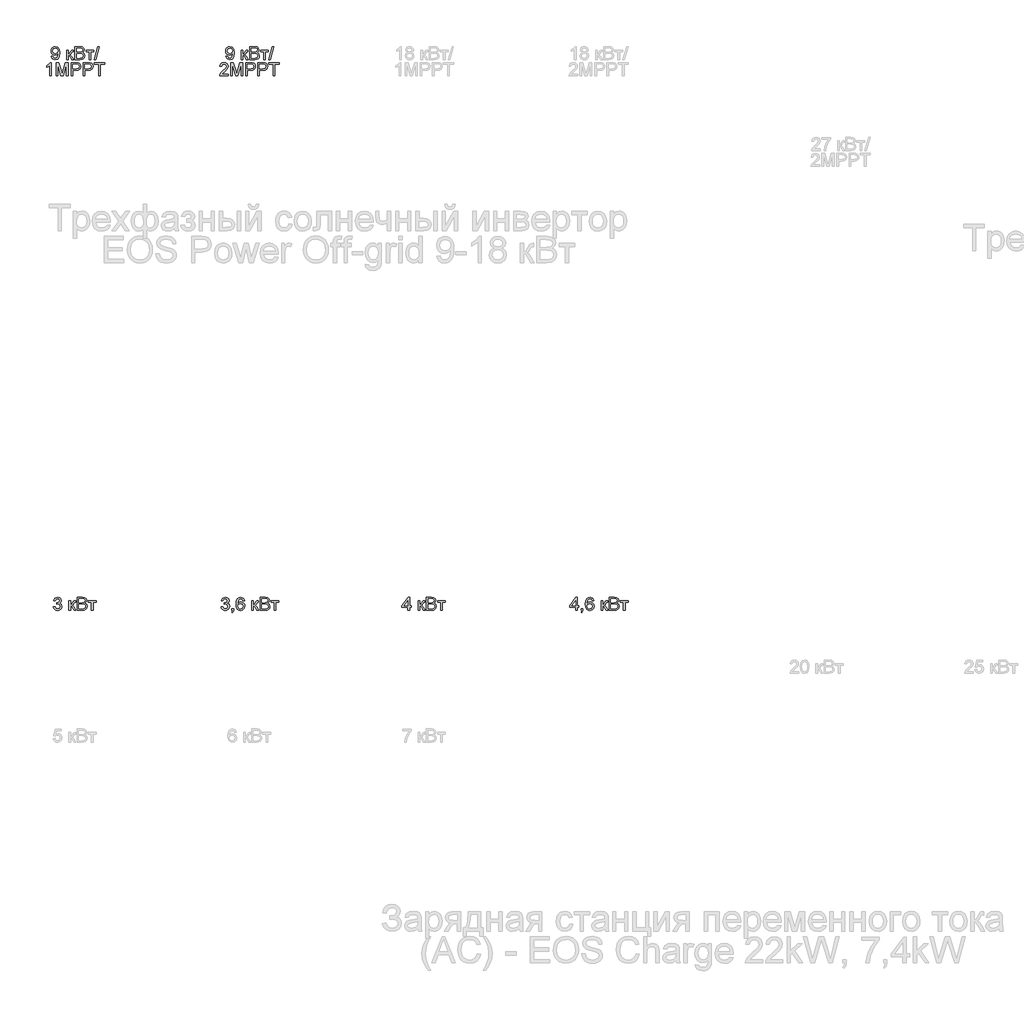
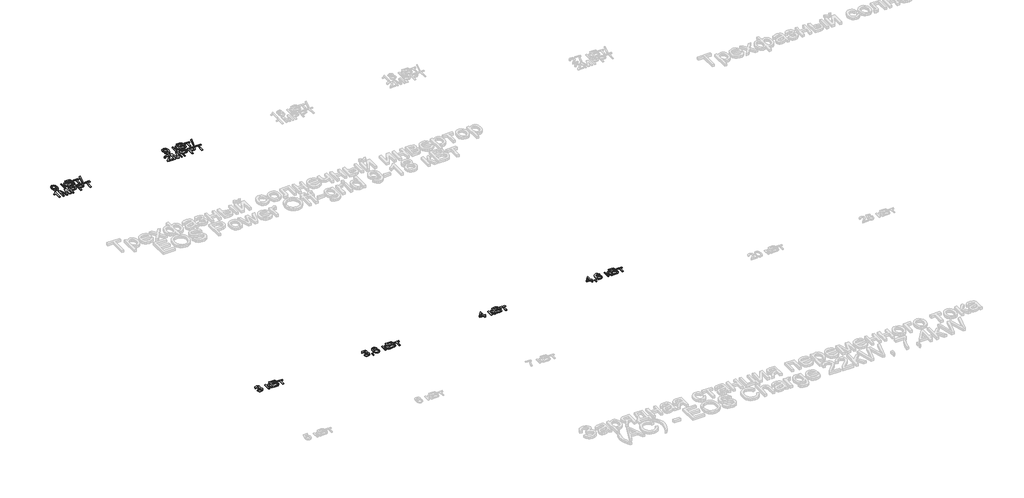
# One storey, part 4 of 26: 6 proxies.
"""IFC4 building model written with IfcOpenShell, lengths in millimetres."""

from ifc_helpers import new_model, si_unit, origin, origin_with_axes, place, context, project, spatial, polyline, outline, extrude, element, save

model = new_model("IFC4")

# Units and contexts
model_context = context("Model", 3, world=origin())
ifc_project = project(units=[si_unit("LENGTHUNIT", "METRE", prefix="MILLI")], contexts=[model_context])

# Site, building, storey
site = spatial("IfcSite", under=ifc_project)
building = spatial("IfcBuilding", under=site)
storey = spatial("IfcBuildingStorey", under=building, Name="Этаж 01", Elevation=0.0)

# Proxies
placement = place(None, origin())
element("IfcBuildingElementProxy", 1, Name="75 мм Arial", ObjectType="75 мм Arial", at=placement, inside=storey, context=model_context, shape_type="SweptSolid", body=[
    extrude(outline(polyline([(863.5495843, -19274.6892694), (872.9673634, -19273.512047), (878.1636966, -19283.4264667), (887.8849783, -19286.4614932), (899.3261083, -19282.2860326), (903.5751454, -19271.9485485), (899.3628965, -19262.2088727), (888.6575305, -19258.3553088), (882.0540487, -19259.3853784), (883.1025124, -19249.9675993), (895.2978005, -19247.3740312), (900.0434782, -19239.0598981), (896.6037816, -19231.6930612), (887.7378255, -19228.7775964), (878.7615048, -19231.7206523), (874.1445858, -19240.5498202), (864.7268067, -19239.3725978), (872.4339345, -19224.6021357), (887.4067317, -19219.3598173), (898.7650883, -19221.9441883), (906.7113394, -19229.0075226), (909.4612573, -19238.5080751), (906.8492951, -19247.1900902), (899.1237732, -19253.42569), (909.3876809, -19259.863625), (912.9929245, -19272.1140954), (911.1903027, -19281.2927512), (905.7824374, -19288.9630908), (897.6200556, -19294.1502269), (887.5538845, -19295.8792723), (878.4488051, -19294.4031458), (871.0359829, -19289.9747663), (865.8810365, -19283.201139), (863.5495843, -19274.6892694)])), origin_with_axes(), (0.0, 0.0, 1.0), 5.0),
    extrude(outline(polyline([(953.0184855, -19239.3725978), (962.4362646, -19239.3725978), (962.4362646, -19262.9170455), (968.7454408, -19261.2247883), (973.9141829, -19251.3655509), (978.2092052, -19242.8582797), (981.9983897, -19240.0899677), (988.8869801, -19239.3725978), (990.6896018, -19239.3725978), (990.6896018, -19248.8455592), (988.1512161, -19248.7903769), (983.5526911, -19249.7836583), (980.3153296, -19255.9824699), (976.516948, -19262.6871193), (971.1918561, -19265.9704661), (982.9640799, -19277.3564138), (993.0440466, -19294.7020499), (982.3386806, -19294.7020499), (972.461049, -19277.7242958), (967.494642, -19270.5413999), (962.4362646, -19268.8031574), (962.4362646, -19294.7020499), (953.0184855, -19294.7020499), (953.0184855, -19239.3725978)])), origin_with_axes(), (0.0, 0.0, 1.0), 5.0),
    extrude(outline(polyline([(1000.1073809, -19294.7020499), (1000.1073809, -19219.3598173), (1028.8573588, -19219.3598173), (1042.9380422, -19221.5763063), (1051.2521753, -19228.3913203), (1054.2596106, -19238.0298285), (1051.7304219, -19246.8314053), (1044.0876734, -19253.4992664), (1053.3674968, -19260.5258125), (1056.6140554, -19272.2428541), (1054.3975664, -19282.368806), (1048.9069276, -19289.5792931), (1040.7123561, -19293.4052659), (1028.6366296, -19294.7020499), (1000.1073809, -19294.7020499)]), holes=[polyline([(1009.52516, -19249.9675993), (1026.7236433, -19249.9675993), (1036.7668217, -19249.1582589), (1042.8092835, -19245.672577), (1044.8418315, -19239.5381447), (1042.9472393, -19233.3945154), (1037.5209798, -19229.7616807), (1025.4176622, -19228.7775964), (1009.52516, -19228.7775964), (1009.52516, -19249.9675993)]), polyline([(1009.52516, -19285.2842708), (1028.8389647, -19285.2842708), (1035.8287227, -19284.9163888), (1041.7424257, -19282.8654467), (1045.660369, -19278.680789), (1047.1962763, -19272.3348246), (1045.3936545, -19265.0139729), (1039.5535279, -19260.6453742), (1027.9192598, -19259.3853784), (1009.52516, -19259.3853784), (1009.52516, -19285.2842708)])]), origin_with_axes(), (0.0, 0.0, 1.0), 5.0),
    extrude(outline(polyline([(1063.6773897, -19239.3725978), (1108.4118403, -19239.3725978), (1108.4118403, -19248.7903769), (1090.7535045, -19248.7903769), (1090.7535045, -19294.7020499), (1081.3357255, -19294.7020499), (1081.3357255, -19248.7903769), (1063.6773897, -19248.7903769), (1063.6773897, -19239.3725978)])), origin_with_axes(), (0.0, 0.0, 1.0), 5.0),
])
element("IfcBuildingElementProxy", 2, Name="75 мм Arial", ObjectType="75 мм Arial", at=placement, inside=storey, context=model_context, shape_type="SweptSolid", body=[
    extrude(outline(polyline([(1823.5495843, -19274.6892694), (1832.9673634, -19273.512047), (1838.1636966, -19283.4264667), (1847.8849783, -19286.4614932), (1859.3261083, -19282.2860326), (1863.5751454, -19271.9485485), (1859.3628965, -19262.2088727), (1848.6575305, -19258.3553088), (1842.0540487, -19259.3853784), (1843.1025124, -19249.9675993), (1855.2978005, -19247.3740312), (1860.0434782, -19239.0598981), (1856.6037816, -19231.6930612), (1847.7378255, -19228.7775964), (1838.7615048, -19231.7206523), (1834.1445858, -19240.5498202), (1824.7268067, -19239.3725978), (1832.4339345, -19224.6021357), (1847.4067317, -19219.3598173), (1858.7650883, -19221.9441883), (1866.7113394, -19229.0075226), (1869.4612573, -19238.5080751), (1866.8492951, -19247.1900902), (1859.1237732, -19253.42569), (1869.3876809, -19259.863625), (1872.9929245, -19272.1140954), (1871.1903027, -19281.2927512), (1865.7824374, -19288.9630908), (1857.6200556, -19294.1502269), (1847.5538845, -19295.8792723), (1838.4488051, -19294.4031458), (1831.0359829, -19289.9747663), (1825.8810365, -19283.201139), (1823.5495843, -19274.6892694)])), origin_with_axes(), (0.0, 0.0, 1.0), 5.0),
    extrude(outline(polyline([(1885.9423707, -19294.7020499), (1885.9423707, -19285.2842708), (1895.3601498, -19285.2842708), (1895.3601498, -19294.7020499), (1893.6678926, -19304.3313611), (1888.2968155, -19310.0059409), (1885.9423707, -19306.4742737), (1889.4004614, -19302.4091777), (1890.6328661, -19294.7020499), (1885.9423707, -19294.7020499)])), origin_with_axes(), (0.0, 0.0, 1.0), 5.0),
    extrude(outline(polyline([(1958.9301585, -19239.3725978), (1949.5123795, -19240.5498202), (1945.9439241, -19232.6955396), (1936.5077509, -19228.7775964), (1928.0096768, -19231.0584647), (1921.580939, -19239.6209182), (1918.9045975, -19256.4055342), (1927.2095335, -19248.8915444), (1937.5010323, -19246.4359321), (1946.2014415, -19248.1143937), (1953.5038991, -19253.1497785), (1958.4565105, -19260.8431108), (1960.1073809, -19270.4954146), (1956.9987781, -19283.4908461), (1948.4455217, -19292.687896), (1936.1030807, -19295.8792723), (1925.418408, -19293.7639508), (1916.9088376, -19287.4179864), (1911.3423232, -19276.2159796), (1909.4868184, -19259.5325312), (1911.5469576, -19240.7751479), (1917.7273751, -19227.9498619), (1926.1656683, -19221.5073284), (1937.0963621, -19219.3598173), (1951.9771888, -19224.6757121), (1958.9301585, -19239.3725978)]), holes=[polyline([(1918.9045975, -19270.3482618), (1921.0842983, -19278.5060451), (1926.8784397, -19284.4289452), (1935.3673167, -19286.4614932), (1946.468156, -19282.2492444), (1950.6896018, -19270.8081143), (1946.5233383, -19259.8544279), (1934.9810407, -19255.8537112), (1923.5858959, -19259.8544279), (1918.9045975, -19270.3482618)])]), origin_with_axes(), (0.0, 0.0, 1.0), 5.0),
    extrude(outline(polyline([(2000.132942, -19239.3725978), (2009.5507211, -19239.3725978), (2009.5507211, -19262.9170455), (2015.8598973, -19261.2247883), (2021.0286393, -19251.3655509), (2025.3236616, -19242.8582797), (2029.1128462, -19240.0899677), (2036.0014365, -19239.3725978), (2037.8040583, -19239.3725978), (2037.8040583, -19248.8455592), (2035.2656725, -19248.7903769), (2030.6671476, -19249.7836583), (2027.429786, -19255.9824699), (2023.6314044, -19262.6871193), (2018.3063126, -19265.9704661), (2030.0785364, -19277.3564138), (2040.1585031, -19294.7020499), (2029.453137, -19294.7020499), (2019.5755054, -19277.7242958), (2014.6090985, -19270.5413999), (2009.5507211, -19268.8031574), (2009.5507211, -19294.7020499), (2000.132942, -19294.7020499), (2000.132942, -19239.3725978)])), origin_with_axes(), (0.0, 0.0, 1.0), 5.0),
    extrude(outline(polyline([(2047.2218374, -19294.7020499), (2047.2218374, -19219.3598173), (2075.9718153, -19219.3598173), (2090.0524987, -19221.5763063), (2098.3666318, -19228.3913203), (2101.3740671, -19238.0298285), (2098.8448784, -19246.8314053), (2091.2021299, -19253.4992664), (2100.4819532, -19260.5258125), (2103.7285118, -19272.2428541), (2101.5120228, -19282.368806), (2096.021384, -19289.5792931), (2087.8268126, -19293.4052659), (2075.7510861, -19294.7020499), (2047.2218374, -19294.7020499)]), holes=[polyline([(2056.6396165, -19249.9675993), (2073.8380997, -19249.9675993), (2083.8812782, -19249.1582589), (2089.92374, -19245.672577), (2091.956288, -19239.5381447), (2090.0616957, -19233.3945154), (2084.6354363, -19229.7616807), (2072.5321186, -19228.7775964), (2056.6396165, -19228.7775964), (2056.6396165, -19249.9675993)]), polyline([(2056.6396165, -19285.2842708), (2075.9534212, -19285.2842708), (2082.9431791, -19284.9163888), (2088.8568822, -19282.8654467), (2092.7748254, -19278.680789), (2094.3107328, -19272.3348246), (2092.508111, -19265.0139729), (2086.6679843, -19260.6453742), (2075.0337162, -19259.3853784), (2056.6396165, -19259.3853784), (2056.6396165, -19285.2842708)])]), origin_with_axes(), (0.0, 0.0, 1.0), 5.0),
    extrude(outline(polyline([(2110.7918461, -19239.3725978), (2155.5262968, -19239.3725978), (2155.5262968, -19248.7903769), (2137.867961, -19248.7903769), (2137.867961, -19294.7020499), (2128.4501819, -19294.7020499), (2128.4501819, -19248.7903769), (2110.7918461, -19248.7903769), (2110.7918461, -19239.3725978)])), origin_with_axes(), (0.0, 0.0, 1.0), 5.0),
])
element("IfcBuildingElementProxy", 3, Name="75 мм Arial", ObjectType="75 мм Arial", at=placement, inside=storey, context=model_context, shape_type="SweptSolid", body=[
    extrude(outline(polyline([(2894.1573663, -19294.7020499), (2894.1573663, -19277.0437141), (2860.0179172, -19277.0437141), (2860.0179172, -19267.6259351), (2896.5118111, -19220.5370397), (2903.5751454, -19220.5370397), (2903.5751454, -19267.6259351), (2912.9929245, -19267.6259351), (2912.9929245, -19277.0437141), (2903.5751454, -19277.0437141), (2903.5751454, -19294.7020499), (2894.1573663, -19294.7020499)]), holes=[polyline([(2894.1573663, -19267.6259351), (2894.1573663, -19238.5264692), (2871.6062, -19267.6259351), (2894.1573663, -19267.6259351)])]), origin_with_axes(), (0.0, 0.0, 1.0), 5.0),
    extrude(outline(polyline([(2953.0184855, -19239.3725978), (2962.4362646, -19239.3725978), (2962.4362646, -19262.9170455), (2968.7454408, -19261.2247883), (2973.9141829, -19251.3655509), (2978.2092052, -19242.8582797), (2981.9983897, -19240.0899677), (2988.8869801, -19239.3725978), (2990.6896018, -19239.3725978), (2990.6896018, -19248.8455592), (2988.1512161, -19248.7903769), (2983.5526911, -19249.7836583), (2980.3153296, -19255.9824699), (2976.516948, -19262.6871193), (2971.1918561, -19265.9704661), (2982.9640799, -19277.3564138), (2993.0440466, -19294.7020499), (2982.3386806, -19294.7020499), (2972.461049, -19277.7242958), (2967.494642, -19270.5413999), (2962.4362646, -19268.8031574), (2962.4362646, -19294.7020499), (2953.0184855, -19294.7020499), (2953.0184855, -19239.3725978)])), origin_with_axes(), (0.0, 0.0, 1.0), 5.0),
    extrude(outline(polyline([(3000.1073809, -19294.7020499), (3000.1073809, -19219.3598173), (3028.8573588, -19219.3598173), (3042.9380422, -19221.5763063), (3051.2521753, -19228.3913203), (3054.2596106, -19238.0298285), (3051.7304219, -19246.8314053), (3044.0876734, -19253.4992664), (3053.3674968, -19260.5258125), (3056.6140554, -19272.2428541), (3054.3975664, -19282.368806), (3048.9069276, -19289.5792931), (3040.7123561, -19293.4052659), (3028.6366296, -19294.7020499), (3000.1073809, -19294.7020499)]), holes=[polyline([(3009.52516, -19249.9675993), (3026.7236433, -19249.9675993), (3036.7668217, -19249.1582589), (3042.8092835, -19245.672577), (3044.8418315, -19239.5381447), (3042.9472393, -19233.3945154), (3037.5209798, -19229.7616807), (3025.4176622, -19228.7775964), (3009.52516, -19228.7775964), (3009.52516, -19249.9675993)]), polyline([(3009.52516, -19285.2842708), (3028.8389647, -19285.2842708), (3035.8287227, -19284.9163888), (3041.7424257, -19282.8654467), (3045.660369, -19278.680789), (3047.1962763, -19272.3348246), (3045.3936545, -19265.0139729), (3039.5535279, -19260.6453742), (3027.9192598, -19259.3853784), (3009.52516, -19259.3853784), (3009.52516, -19285.2842708)])]), origin_with_axes(), (0.0, 0.0, 1.0), 5.0),
    extrude(outline(polyline([(3063.6773897, -19239.3725978), (3108.4118403, -19239.3725978), (3108.4118403, -19248.7903769), (3090.7535045, -19248.7903769), (3090.7535045, -19294.7020499), (3081.3357255, -19294.7020499), (3081.3357255, -19248.7903769), (3063.6773897, -19248.7903769), (3063.6773897, -19239.3725978)])), origin_with_axes(), (0.0, 0.0, 1.0), 5.0),
])
element("IfcBuildingElementProxy", 4, Name="75 мм Arial", ObjectType="75 мм Arial", at=placement, inside=storey, context=model_context, shape_type="SweptSolid", body=[
    extrude(outline(polyline([(3854.1573663, -19294.7020499), (3854.1573663, -19277.0437141), (3820.0179172, -19277.0437141), (3820.0179172, -19267.6259351), (3856.5118111, -19220.5370397), (3863.5751454, -19220.5370397), (3863.5751454, -19267.6259351), (3872.9929245, -19267.6259351), (3872.9929245, -19277.0437141), (3863.5751454, -19277.0437141), (3863.5751454, -19294.7020499), (3854.1573663, -19294.7020499)]), holes=[polyline([(3854.1573663, -19267.6259351), (3854.1573663, -19238.5264692), (3831.6062, -19267.6259351), (3854.1573663, -19267.6259351)])]), origin_with_axes(), (0.0, 0.0, 1.0), 5.0),
    extrude(outline(polyline([(3885.9423707, -19294.7020499), (3885.9423707, -19285.2842708), (3895.3601498, -19285.2842708), (3895.3601498, -19294.7020499), (3893.6678926, -19304.3313611), (3888.2968155, -19310.0059409), (3885.9423707, -19306.4742737), (3889.4004614, -19302.4091777), (3890.6328661, -19294.7020499), (3885.9423707, -19294.7020499)])), origin_with_axes(), (0.0, 0.0, 1.0), 5.0),
    extrude(outline(polyline([(3958.9301585, -19239.3725978), (3949.5123795, -19240.5498202), (3945.9439241, -19232.6955396), (3936.5077509, -19228.7775964), (3928.0096768, -19231.0584647), (3921.580939, -19239.6209182), (3918.9045975, -19256.4055342), (3927.2095335, -19248.8915444), (3937.5010323, -19246.4359321), (3946.2014415, -19248.1143937), (3953.5038991, -19253.1497785), (3958.4565105, -19260.8431108), (3960.1073809, -19270.4954146), (3956.9987781, -19283.4908461), (3948.4455217, -19292.687896), (3936.1030807, -19295.8792723), (3925.418408, -19293.7639508), (3916.9088376, -19287.4179864), (3911.3423232, -19276.2159796), (3909.4868184, -19259.5325312), (3911.5469576, -19240.7751479), (3917.7273751, -19227.9498619), (3926.1656683, -19221.5073284), (3937.0963621, -19219.3598173), (3951.9771888, -19224.6757121), (3958.9301585, -19239.3725978)]), holes=[polyline([(3918.9045975, -19270.3482618), (3921.0842983, -19278.5060451), (3926.8784397, -19284.4289452), (3935.3673167, -19286.4614932), (3946.468156, -19282.2492444), (3950.6896018, -19270.8081143), (3946.5233383, -19259.8544279), (3934.9810407, -19255.8537112), (3923.5858959, -19259.8544279), (3918.9045975, -19270.3482618)])]), origin_with_axes(), (0.0, 0.0, 1.0), 5.0),
    extrude(outline(polyline([(4000.132942, -19239.3725978), (4009.5507211, -19239.3725978), (4009.5507211, -19262.9170455), (4015.8598973, -19261.2247883), (4021.0286393, -19251.3655509), (4025.3236616, -19242.8582797), (4029.1128462, -19240.0899677), (4036.0014365, -19239.3725978), (4037.8040583, -19239.3725978), (4037.8040583, -19248.8455592), (4035.2656725, -19248.7903769), (4030.6671476, -19249.7836583), (4027.429786, -19255.9824699), (4023.6314044, -19262.6871193), (4018.3063126, -19265.9704661), (4030.0785364, -19277.3564138), (4040.1585031, -19294.7020499), (4029.453137, -19294.7020499), (4019.5755054, -19277.7242958), (4014.6090985, -19270.5413999), (4009.5507211, -19268.8031574), (4009.5507211, -19294.7020499), (4000.132942, -19294.7020499), (4000.132942, -19239.3725978)])), origin_with_axes(), (0.0, 0.0, 1.0), 5.0),
    extrude(outline(polyline([(4047.2218374, -19294.7020499), (4047.2218374, -19219.3598173), (4075.9718153, -19219.3598173), (4090.0524987, -19221.5763063), (4098.3666318, -19228.3913203), (4101.3740671, -19238.0298285), (4098.8448784, -19246.8314053), (4091.2021299, -19253.4992664), (4100.4819532, -19260.5258125), (4103.7285118, -19272.2428541), (4101.5120228, -19282.368806), (4096.021384, -19289.5792931), (4087.8268126, -19293.4052659), (4075.7510861, -19294.7020499), (4047.2218374, -19294.7020499)]), holes=[polyline([(4056.6396165, -19249.9675993), (4073.8380997, -19249.9675993), (4083.8812782, -19249.1582589), (4089.92374, -19245.672577), (4091.956288, -19239.5381447), (4090.0616957, -19233.3945154), (4084.6354363, -19229.7616807), (4072.5321186, -19228.7775964), (4056.6396165, -19228.7775964), (4056.6396165, -19249.9675993)]), polyline([(4056.6396165, -19285.2842708), (4075.9534212, -19285.2842708), (4082.9431791, -19284.9163888), (4088.8568822, -19282.8654467), (4092.7748254, -19278.680789), (4094.3107328, -19272.3348246), (4092.508111, -19265.0139729), (4086.6679843, -19260.6453742), (4075.0337162, -19259.3853784), (4056.6396165, -19259.3853784), (4056.6396165, -19285.2842708)])]), origin_with_axes(), (0.0, 0.0, 1.0), 5.0),
    extrude(outline(polyline([(4110.7918461, -19239.3725978), (4155.5262968, -19239.3725978), (4155.5262968, -19248.7903769), (4137.867961, -19248.7903769), (4137.867961, -19294.7020499), (4128.4501819, -19294.7020499), (4128.4501819, -19248.7903769), (4110.7918461, -19248.7903769), (4110.7918461, -19239.3725978)])), origin_with_axes(), (0.0, 0.0, 1.0), 5.0),
])
element("IfcBuildingElementProxy", 5, Name="75 мм Arial", ObjectType="75 мм Arial", at=placement, inside=storey, context=model_context, shape_type="SweptSolid", body=[
    extrude(outline(polyline([(851.577725, -16122.6814482), (860.9955041, -16121.5042258), (865.226147, -16130.4897435), (873.2459745, -16133.2764496), (880.8703289, -16131.4830249), (886.0390709, -16126.6913619), (889.1200826, -16118.5059875), (890.481246, -16107.5798923), (890.4260637, -16105.7404823), (882.8936798, -16112.877393), (872.5653928, -16115.6181139), (863.9776475, -16113.9442508), (856.8292405, -16108.9226616), (852.0076871, -16101.16495), (850.4005026, -16091.2827199), (852.085862, -16081.0739945), (857.1419402, -16073.0725611), (864.7364041, -16067.8992206), (874.0369208, -16066.1747737), (887.4554166, -16070.1111111), (896.6892547, -16081.3315119), (899.8438428, -16102.4111502), (896.6984517, -16125.2842133), (887.345052, -16138.2428566), (872.8045161, -16142.6942287), (858.3283596, -16137.4427132), (851.577725, -16122.6814482)]), holes=[polyline([(890.4260637, -16091.0619907), (886.3609676, -16079.7680134), (875.5636311, -16075.5925528), (864.2328656, -16080.0899102), (859.8182817, -16091.7425724), (863.9937423, -16102.181224), (875.3061137, -16106.2003348), (886.1678296, -16102.181224), (890.4260637, -16091.0619907)])]), origin_with_axes(), (0.0, 0.0, 1.0), 5.0),
    extrude(outline(polyline([(939.8694038, -16086.1875542), (949.2871829, -16086.1875542), (949.2871829, -16109.7320019), (955.5963591, -16108.0397448), (960.7651012, -16098.1805073), (965.0601235, -16089.6732362), (968.849308, -16086.9049241), (975.7378984, -16086.1875542), (977.5405202, -16086.1875542), (977.5405202, -16095.6605156), (975.0021344, -16095.6053333), (970.4036094, -16096.5986147), (967.1662479, -16102.7974263), (963.3678663, -16109.5020757), (958.0427744, -16112.7854225), (969.8149983, -16124.1713703), (979.8949649, -16141.5170063), (969.1895989, -16141.5170063), (959.3119673, -16124.5392522), (954.3455604, -16117.3563563), (949.2871829, -16115.6181139), (949.2871829, -16141.5170063), (939.8694038, -16141.5170063), (939.8694038, -16086.1875542)])), origin_with_axes(), (0.0, 0.0, 1.0), 5.0),
    extrude(outline(polyline([(986.9582992, -16141.5170063), (986.9582992, -16066.1747737), (1015.7082772, -16066.1747737), (1029.7889605, -16068.3912627), (1038.1030936, -16075.2062767), (1041.1105289, -16084.844785), (1038.5813402, -16093.6463617), (1030.9385918, -16100.3142229), (1040.2184151, -16107.340769), (1043.4649737, -16119.0578105), (1041.2484847, -16129.1837624), (1035.7578459, -16136.3942495), (1027.5632744, -16140.2202223), (1015.487548, -16141.5170063), (986.9582992, -16141.5170063)]), holes=[polyline([(996.3760783, -16096.7825557), (1013.5745616, -16096.7825557), (1023.61774, -16095.9732153), (1029.6602018, -16092.4875334), (1031.6927498, -16086.3531011), (1029.7981576, -16080.2094718), (1024.3718981, -16076.5766371), (1012.2685805, -16075.5925528), (996.3760783, -16075.5925528), (996.3760783, -16096.7825557)]), polyline([(996.3760783, -16132.0992272), (1015.6898831, -16132.0992272), (1022.679641, -16131.7313453), (1028.593344, -16129.6804031), (1032.5112873, -16125.4957454), (1034.0471946, -16119.149781), (1032.2445728, -16111.8289293), (1026.4044462, -16107.4603306), (1014.7701781, -16106.2003348), (996.3760783, -16106.2003348), (996.3760783, -16132.0992272)])]), origin_with_axes(), (0.0, 0.0, 1.0), 5.0),
    extrude(outline(polyline([(1050.528308, -16086.1875542), (1095.2627586, -16086.1875542), (1095.2627586, -16095.6053333), (1077.6044228, -16095.6053333), (1077.6044228, -16141.5170063), (1068.1866438, -16141.5170063), (1068.1866438, -16095.6053333), (1050.528308, -16095.6053333), (1050.528308, -16086.1875542)])), origin_with_axes(), (0.0, 0.0, 1.0), 5.0),
    extrude(outline(polyline([(1096.439981, -16141.5170063), (1117.6299839, -16066.1747737), (1126.128058, -16066.1747737), (1104.9380551, -16141.5170063), (1096.439981, -16141.5170063)])), origin_with_axes(), (0.0, 0.0, 1.0), 5.0),
    extrude(outline(polyline([(852.7549474, -16232.9981197), (843.3371683, -16232.9981197), (843.3371683, -16174.2841533), (834.4160299, -16180.6393147), (824.5016102, -16185.3941895), (824.5016102, -16176.4914452), (838.306382, -16167.6806715), (846.6848945, -16157.6558871), (852.7549474, -16157.6558871), (852.7549474, -16232.9981197)])), origin_with_axes(), (0.0, 0.0, 1.0), 5.0),
    extrude(outline(polyline([(878.6538398, -16232.9981197), (878.6538398, -16157.6558871), (894.8590417, -16157.6558871), (910.2732973, -16210.7596531), (913.3819002, -16221.8512953), (916.7480204, -16209.8399481), (931.9047586, -16157.6558871), (948.1099605, -16157.6558871), (948.1099605, -16232.9981197), (938.6921815, -16232.9981197), (938.6921815, -16167.0736662), (919.7646528, -16232.9981197), (906.9991476, -16232.9981197), (888.0716189, -16167.0736662), (888.0716189, -16232.9981197), (878.6538398, -16232.9981197)])), origin_with_axes(), (0.0, 0.0, 1.0), 5.0),
    extrude(outline(polyline([(964.5910739, -16232.9981197), (964.5910739, -16157.6558871), (992.5133174, -16157.6558871), (1003.7705064, -16158.373257), (1012.921571, -16161.8957271), (1018.8536682, -16169.1797906), (1021.0977484, -16179.4528953), (1019.5825344, -16188.332647), (1015.0368925, -16195.7316736), (1006.5365192, -16200.7256717), (993.1571108, -16202.3903377), (974.008853, -16202.3903377), (974.008853, -16232.9981197), (964.5910739, -16232.9981197)]), holes=[polyline([(974.008853, -16192.9725586), (993.7089338, -16192.9725586), (1007.5780851, -16189.5144679), (1011.6799693, -16179.7839891), (1009.2611452, -16171.9848908), (1002.9059837, -16167.7174597), (993.4882046, -16167.0736662), (974.008853, -16167.0736662), (974.008853, -16192.9725586)])]), origin_with_axes(), (0.0, 0.0, 1.0), 5.0),
    extrude(outline(polyline([(1034.0471946, -16232.9981197), (1034.0471946, -16157.6558871), (1061.969438, -16157.6558871), (1073.2266271, -16158.373257), (1082.3776917, -16161.8957271), (1088.3097889, -16169.1797906), (1090.5538691, -16179.4528953), (1089.0386551, -16188.332647), (1084.4930132, -16195.7316736), (1075.9926398, -16200.7256717), (1062.6132315, -16202.3903377), (1043.4649737, -16202.3903377), (1043.4649737, -16232.9981197), (1034.0471946, -16232.9981197)]), holes=[polyline([(1043.4649737, -16192.9725586), (1063.1650545, -16192.9725586), (1077.0342057, -16189.5144679), (1081.13609, -16179.7839891), (1078.7172659, -16171.9848908), (1072.3621044, -16167.7174597), (1062.9443253, -16167.0736662), (1043.4649737, -16167.0736662), (1043.4649737, -16192.9725586)])]), origin_with_axes(), (0.0, 0.0, 1.0), 5.0),
    extrude(outline(polyline([(1122.3388735, -16232.9981197), (1122.3388735, -16167.0736662), (1097.6172034, -16167.0736662), (1097.6172034, -16157.6558871), (1156.4783226, -16157.6558871), (1156.4783226, -16167.0736662), (1131.7566525, -16167.0736662), (1131.7566525, -16232.9981197), (1122.3388735, -16232.9981197)])), origin_with_axes(), (0.0, 0.0, 1.0), 5.0),
])
element("IfcBuildingElementProxy", 6, Name="75 мм Arial", ObjectType="75 мм Arial", at=placement, inside=storey, context=model_context, shape_type="SweptSolid", body=[
    extrude(outline(polyline([(1851.577725, -16122.6814482), (1860.9955041, -16121.5042258), (1865.226147, -16130.4897435), (1873.2459745, -16133.2764496), (1880.8703289, -16131.4830249), (1886.0390709, -16126.6913619), (1889.1200826, -16118.5059875), (1890.481246, -16107.5798923), (1890.4260637, -16105.7404823), (1882.8936798, -16112.877393), (1872.5653928, -16115.6181139), (1863.9776475, -16113.9442508), (1856.8292405, -16108.9226616), (1852.0076871, -16101.16495), (1850.4005026, -16091.2827199), (1852.085862, -16081.0739945), (1857.1419402, -16073.0725611), (1864.7364041, -16067.8992206), (1874.0369208, -16066.1747737), (1887.4554166, -16070.1111111), (1896.6892547, -16081.3315119), (1899.8438428, -16102.4111502), (1896.6984517, -16125.2842133), (1887.345052, -16138.2428566), (1872.8045161, -16142.6942287), (1858.3283596, -16137.4427132), (1851.577725, -16122.6814482)]), holes=[polyline([(1890.4260637, -16091.0619907), (1886.3609676, -16079.7680134), (1875.5636311, -16075.5925528), (1864.2328656, -16080.0899102), (1859.8182817, -16091.7425724), (1863.9937423, -16102.181224), (1875.3061137, -16106.2003348), (1886.1678296, -16102.181224), (1890.4260637, -16091.0619907)])]), origin_with_axes(), (0.0, 0.0, 1.0), 5.0),
    extrude(outline(polyline([(1939.8694038, -16086.1875542), (1949.2871829, -16086.1875542), (1949.2871829, -16109.7320019), (1955.5963591, -16108.0397448), (1960.7651012, -16098.1805073), (1965.0601235, -16089.6732362), (1968.849308, -16086.9049241), (1975.7378984, -16086.1875542), (1977.5405202, -16086.1875542), (1977.5405202, -16095.6605156), (1975.0021344, -16095.6053333), (1970.4036094, -16096.5986147), (1967.1662479, -16102.7974263), (1963.3678663, -16109.5020757), (1958.0427744, -16112.7854225), (1969.8149983, -16124.1713703), (1979.8949649, -16141.5170063), (1969.1895989, -16141.5170063), (1959.3119673, -16124.5392522), (1954.3455604, -16117.3563563), (1949.2871829, -16115.6181139), (1949.2871829, -16141.5170063), (1939.8694038, -16141.5170063), (1939.8694038, -16086.1875542)])), origin_with_axes(), (0.0, 0.0, 1.0), 5.0),
    extrude(outline(polyline([(1986.9582992, -16141.5170063), (1986.9582992, -16066.1747737), (2015.7082772, -16066.1747737), (2029.7889605, -16068.3912627), (2038.1030936, -16075.2062767), (2041.1105289, -16084.844785), (2038.5813402, -16093.6463617), (2030.9385918, -16100.3142229), (2040.2184151, -16107.340769), (2043.4649737, -16119.0578105), (2041.2484847, -16129.1837624), (2035.7578459, -16136.3942495), (2027.5632744, -16140.2202223), (2015.487548, -16141.5170063), (1986.9582992, -16141.5170063)]), holes=[polyline([(1996.3760783, -16096.7825557), (2013.5745616, -16096.7825557), (2023.61774, -16095.9732153), (2029.6602018, -16092.4875334), (2031.6927498, -16086.3531011), (2029.7981576, -16080.2094718), (2024.3718981, -16076.5766371), (2012.2685805, -16075.5925528), (1996.3760783, -16075.5925528), (1996.3760783, -16096.7825557)]), polyline([(1996.3760783, -16132.0992272), (2015.6898831, -16132.0992272), (2022.679641, -16131.7313453), (2028.593344, -16129.6804031), (2032.5112873, -16125.4957454), (2034.0471946, -16119.149781), (2032.2445728, -16111.8289293), (2026.4044462, -16107.4603306), (2014.7701781, -16106.2003348), (1996.3760783, -16106.2003348), (1996.3760783, -16132.0992272)])]), origin_with_axes(), (0.0, 0.0, 1.0), 5.0),
    extrude(outline(polyline([(2050.528308, -16086.1875542), (2095.2627586, -16086.1875542), (2095.2627586, -16095.6053333), (2077.6044228, -16095.6053333), (2077.6044228, -16141.5170063), (2068.1866438, -16141.5170063), (2068.1866438, -16095.6053333), (2050.528308, -16095.6053333), (2050.528308, -16086.1875542)])), origin_with_axes(), (0.0, 0.0, 1.0), 5.0),
    extrude(outline(polyline([(2096.439981, -16141.5170063), (2117.6299839, -16066.1747737), (2126.128058, -16066.1747737), (2104.9380551, -16141.5170063), (2096.439981, -16141.5170063)])), origin_with_axes(), (0.0, 0.0, 1.0), 5.0),
    extrude(outline(polyline([(1865.7043936, -16223.5803406), (1865.7043936, -16232.9981197), (1816.2610535, -16232.9981197), (1817.272729, -16226.5050025), (1822.993294, -16216.5078093), (1834.7839119, -16205.5909111), (1851.0442961, -16189.900744), (1855.1093922, -16179.2321661), (1851.2742224, -16170.5961363), (1841.258635, -16167.0736662), (1830.8199834, -16170.5133628), (1826.8560549, -16180.0231124), (1817.4382759, -16178.84589), (1819.7214435, -16169.7362121), (1824.65796, -16163.0821465), (1831.990308, -16159.012452), (1841.4609701, -16157.6558871), (1851.0006101, -16159.1642033), (1858.3191626, -16163.6891518), (1862.9751691, -16170.4489835), (1864.5271712, -16178.661949), (1862.8533082, -16187.5922845), (1857.289093, -16196.8261225), (1843.7970208, -16209.7295835), (1832.962896, -16218.7886776), (1828.713859, -16223.5803406), (1865.7043936, -16223.5803406)])), origin_with_axes(), (0.0, 0.0, 1.0), 5.0),
    extrude(outline(polyline([(1878.6538398, -16232.9981197), (1878.6538398, -16157.6558871), (1894.8590417, -16157.6558871), (1910.2732973, -16210.7596531), (1913.3819002, -16221.8512953), (1916.7480204, -16209.8399481), (1931.9047586, -16157.6558871), (1948.1099605, -16157.6558871), (1948.1099605, -16232.9981197), (1938.6921815, -16232.9981197), (1938.6921815, -16167.0736662), (1919.7646528, -16232.9981197), (1906.9991476, -16232.9981197), (1888.0716189, -16167.0736662), (1888.0716189, -16232.9981197), (1878.6538398, -16232.9981197)])), origin_with_axes(), (0.0, 0.0, 1.0), 5.0),
    extrude(outline(polyline([(1964.5910739, -16232.9981197), (1964.5910739, -16157.6558871), (1992.5133174, -16157.6558871), (2003.7705064, -16158.373257), (2012.921571, -16161.8957271), (2018.8536682, -16169.1797906), (2021.0977484, -16179.4528953), (2019.5825344, -16188.332647), (2015.0368925, -16195.7316736), (2006.5365192, -16200.7256717), (1993.1571108, -16202.3903377), (1974.008853, -16202.3903377), (1974.008853, -16232.9981197), (1964.5910739, -16232.9981197)]), holes=[polyline([(1974.008853, -16192.9725586), (1993.7089338, -16192.9725586), (2007.5780851, -16189.5144679), (2011.6799693, -16179.7839891), (2009.2611452, -16171.9848908), (2002.9059837, -16167.7174597), (1993.4882046, -16167.0736662), (1974.008853, -16167.0736662), (1974.008853, -16192.9725586)])]), origin_with_axes(), (0.0, 0.0, 1.0), 5.0),
    extrude(outline(polyline([(2034.0471946, -16232.9981197), (2034.0471946, -16157.6558871), (2061.969438, -16157.6558871), (2073.2266271, -16158.373257), (2082.3776917, -16161.8957271), (2088.3097889, -16169.1797906), (2090.5538691, -16179.4528953), (2089.0386551, -16188.332647), (2084.4930132, -16195.7316736), (2075.9926398, -16200.7256717), (2062.6132315, -16202.3903377), (2043.4649737, -16202.3903377), (2043.4649737, -16232.9981197), (2034.0471946, -16232.9981197)]), holes=[polyline([(2043.4649737, -16192.9725586), (2063.1650545, -16192.9725586), (2077.0342057, -16189.5144679), (2081.13609, -16179.7839891), (2078.7172659, -16171.9848908), (2072.3621044, -16167.7174597), (2062.9443253, -16167.0736662), (2043.4649737, -16167.0736662), (2043.4649737, -16192.9725586)])]), origin_with_axes(), (0.0, 0.0, 1.0), 5.0),
    extrude(outline(polyline([(2122.3388735, -16232.9981197), (2122.3388735, -16167.0736662), (2097.6172034, -16167.0736662), (2097.6172034, -16157.6558871), (2156.4783226, -16157.6558871), (2156.4783226, -16167.0736662), (2131.7566525, -16167.0736662), (2131.7566525, -16232.9981197), (2122.3388735, -16232.9981197)])), origin_with_axes(), (0.0, 0.0, 1.0), 5.0),
])

save(model, "model.ifc")
